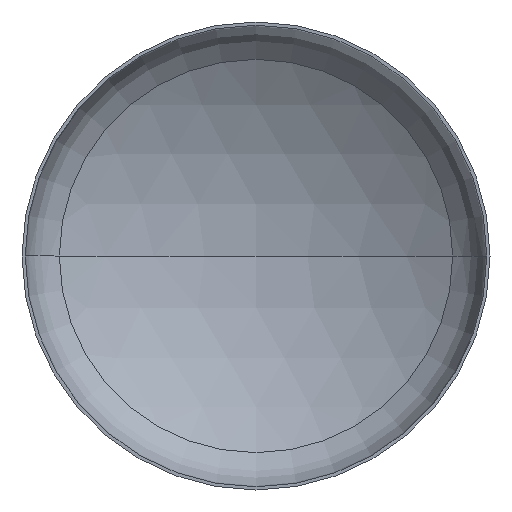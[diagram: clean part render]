
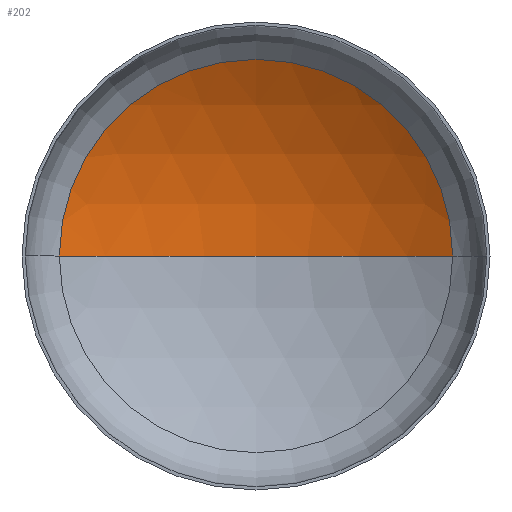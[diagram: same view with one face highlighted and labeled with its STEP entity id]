
A CAD part, front view. The second image highlights one B-rep face of the part: STEP entity #202.
In plain terms, the highlighted spherical face has radius 4400 mm.
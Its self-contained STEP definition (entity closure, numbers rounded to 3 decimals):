
#5 = CARTESIAN_POINT ( 'NONE',  ( 0., 839.09, 0. ) ) ;
#14 = VERTEX_POINT ( 'NONE', #86 ) ;
#22 = AXIS2_PLACEMENT_3D ( 'NONE', #75, #295, #105 ) ;
#36 = CIRCLE ( 'NONE', #22, 4400. ) ;
#40 = DIRECTION ( 'NONE',  ( 1., 0., 0. ) ) ;
#46 = DIRECTION ( 'NONE',  ( 1., 0., 0. ) ) ;
#48 = AXIS2_PLACEMENT_3D ( 'NONE', #5, #228, #46 ) ;
#54 = VERTEX_POINT ( 'NONE', #140 ) ;
#56 = SPHERICAL_SURFACE ( 'NONE', #178, 4400. ) ;
#57 = VERTEX_POINT ( 'NONE', #145 ) ;
#75 = CARTESIAN_POINT ( 'NONE',  ( 0., -2905.283, 0. ) ) ;
#86 = CARTESIAN_POINT ( 'NONE',  ( 2310.774, 839.09, 0. ) ) ;
#96 = DIRECTION ( 'NONE',  ( 0., 0., -1. ) ) ;
#105 = DIRECTION ( 'NONE',  ( -1., 0., 0. ) ) ;
#138 = EDGE_LOOP ( 'NONE', ( #199, #328, #193 ) ) ;
#140 = CARTESIAN_POINT ( 'NONE',  ( 0., 1494.717, 0. ) ) ;
#145 = CARTESIAN_POINT ( 'NONE',  ( -2310.774, 839.09, 0. ) ) ;
#178 = AXIS2_PLACEMENT_3D ( 'NONE', #404, #96, #374 ) ;
#193 = ORIENTED_EDGE ( 'NONE', *, *, #398, .T. ) ;
#199 = ORIENTED_EDGE ( 'NONE', *, *, #276, .F. ) ;
#202 = ADVANCED_FACE ( 'NONE', ( #299 ), #56, .F. ) ;
#223 = DIRECTION ( 'NONE',  ( 0., 0., 1. ) ) ;
#228 = DIRECTION ( 'NONE',  ( 0., -1., 0. ) ) ;
#261 = AXIS2_PLACEMENT_3D ( 'NONE', #409, #223, #40 ) ;
#274 = CIRCLE ( 'NONE', #261, 4400. ) ;
#276 = EDGE_CURVE ( 'NONE', #54, #57, #274, .T. ) ;
#295 = DIRECTION ( 'NONE',  ( 0., 0., -1. ) ) ;
#299 = FACE_OUTER_BOUND ( 'NONE', #138, .T. ) ;
#328 = ORIENTED_EDGE ( 'NONE', *, *, #380, .T. ) ;
#374 = DIRECTION ( 'NONE',  ( -1., 0., 0. ) ) ;
#380 = EDGE_CURVE ( 'NONE', #54, #14, #36, .T. ) ;
#398 = EDGE_CURVE ( 'NONE', #14, #57, #410, .T. ) ;
#404 = CARTESIAN_POINT ( 'NONE',  ( 0., -2905.283, 0. ) ) ;
#409 = CARTESIAN_POINT ( 'NONE',  ( 0., -2905.283, 0. ) ) ;
#410 = CIRCLE ( 'NONE', #48, 2310.774 ) ;
